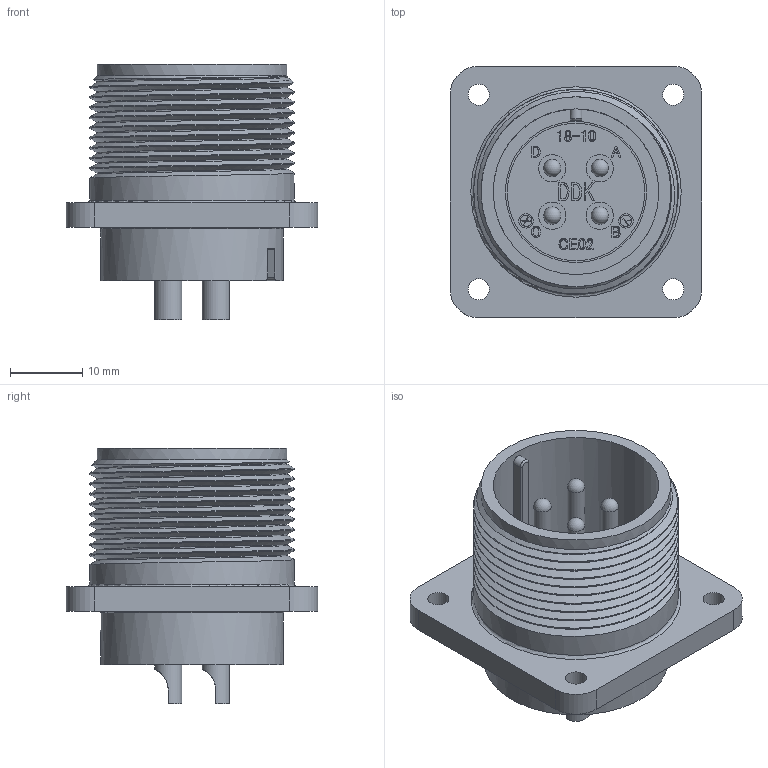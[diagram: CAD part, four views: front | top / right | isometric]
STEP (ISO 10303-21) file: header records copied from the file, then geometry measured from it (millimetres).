
FILE_DESCRIPTION (( 'STEP AP203' ), '1' );
FILE_NAME ('CE02-2A18-10P-D.STEP', '2022-04-18T09:07:34', ( '' ), ( '' ), 'SwSTEP 2.0', 'SolidWorks 2018', '' );
FILE_SCHEMA (( 'CONFIG_CONTROL_DESIGN' ));
Length unit declared in the file: millimetre
Products named in the file (1): CE02-2A18-10P-D
Bounding box: 34.92 x 34.92 x 35.45 mm (x, y, z)
Volume: 11192 mm3; surface area: 8917.9 mm2
Topology: 1 solids, 1 shells, 771 faces, 2078 edges, 1378 vertices
Faces by surface type: plane 360, bspline 326, cylinder 72, cone 6, sphere 4, torus 3
Full cylindrical faces by diameter (mm): 1.6 x2, 2 x2, 2.41 x4, 2.85 x4, 2.93 x4, 3.79 x4, 3.8 x4, 18 x1, 19.1 x1, 19.6 x1, 23 x1, 25.4 x1, 26.35 x1, 28.4 x9
Entity records: 34659 total; most frequent: CARTESIAN_POINT 17990, ORIENTED_EDGE 3968, DIRECTION 2286, EDGE_CURVE 1984, VERTEX_POINT 1339, LINE 1192, VECTOR 1192, EDGE_LOOP 885
